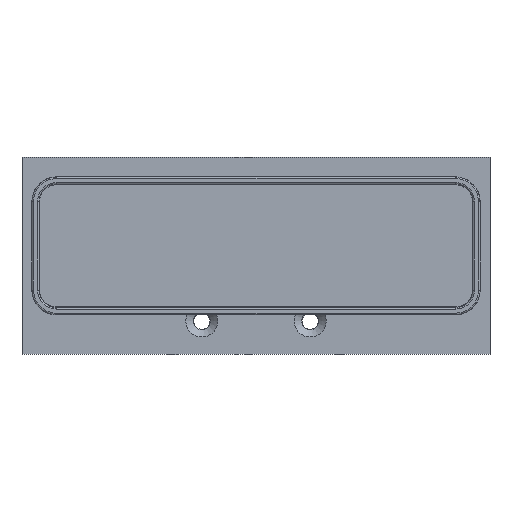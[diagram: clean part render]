
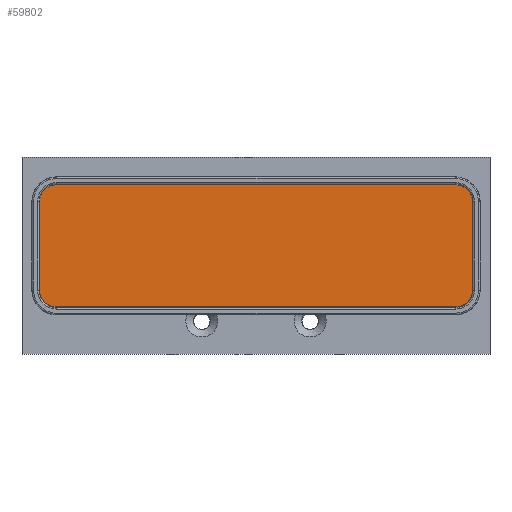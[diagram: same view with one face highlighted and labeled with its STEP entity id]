
A CAD part, top view. The second image highlights one B-rep face of the part: STEP entity #59802.
In plain terms, the highlighted planar face has unit normal (0, 0, 1).
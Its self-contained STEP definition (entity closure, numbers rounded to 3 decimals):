
#58647 = CYLINDRICAL_SURFACE('',#58648,3.4);
#58648 = AXIS2_PLACEMENT_3D('',#58649,#58650,#58651);
#58649 = CARTESIAN_POINT('',(-40.5,9.499,52.35));
#58650 = DIRECTION('',(0.,0.,-1.));
#58651 = DIRECTION('',(-1.,0.,0.));
#58675 = PLANE('',#58676);
#58676 = AXIS2_PLACEMENT_3D('',#58677,#58678,#58679);
#58677 = CARTESIAN_POINT('',(-43.9,12.899,47.601));
#58678 = DIRECTION('',(-1.,0.,0.));
#58679 = DIRECTION('',(0.,-1.,0.));
#58708 = CYLINDRICAL_SURFACE('',#58709,3.4);
#58709 = AXIS2_PLACEMENT_3D('',#58710,#58711,#58712);
#58710 = CARTESIAN_POINT('',(-40.5,-8.501,52.35));
#58711 = DIRECTION('',(0.,0.,-1.));
#58712 = DIRECTION('',(0.,-1.,0.));
#58736 = PLANE('',#58737);
#58737 = AXIS2_PLACEMENT_3D('',#58738,#58739,#58740);
#58738 = CARTESIAN_POINT('',(-43.9,-11.901,47.601));
#58739 = DIRECTION('',(0.,-1.,0.));
#58740 = DIRECTION('',(1.,0.,0.));
#58769 = CYLINDRICAL_SURFACE('',#58770,3.4);
#58770 = AXIS2_PLACEMENT_3D('',#58771,#58772,#58773);
#58771 = CARTESIAN_POINT('',(40.5,-8.501,52.35));
#58772 = DIRECTION('',(0.,0.,-1.));
#58773 = DIRECTION('',(1.,0.,0.));
#58797 = PLANE('',#58798);
#58798 = AXIS2_PLACEMENT_3D('',#58799,#58800,#58801);
#58799 = CARTESIAN_POINT('',(43.9,-11.901,47.601));
#58800 = DIRECTION('',(1.,0.,0.));
#58801 = DIRECTION('',(0.,1.,0.));
#58830 = CYLINDRICAL_SURFACE('',#58831,3.4);
#58831 = AXIS2_PLACEMENT_3D('',#58832,#58833,#58834);
#58832 = CARTESIAN_POINT('',(40.5,9.499,52.35));
#58833 = DIRECTION('',(0.,0.,-1.));
#58834 = DIRECTION('',(0.,1.,0.));
#58856 = PLANE('',#58857);
#58857 = AXIS2_PLACEMENT_3D('',#58858,#58859,#58860);
#58858 = CARTESIAN_POINT('',(43.9,12.899,47.601));
#58859 = DIRECTION('',(0.,1.,0.));
#58860 = DIRECTION('',(-1.,0.,0.));
#59406 = VERTEX_POINT('',#59407);
#59407 = CARTESIAN_POINT('',(-43.9,9.499,48.201));
#59428 = EDGE_CURVE('',#59429,#59406,#59431,.T.);
#59429 = VERTEX_POINT('',#59430);
#59430 = CARTESIAN_POINT('',(-40.5,12.899,48.201));
#59431 = SURFACE_CURVE('',#59432,(#59437,#59444),.PCURVE_S1.);
#59432 = CIRCLE('',#59433,3.4);
#59433 = AXIS2_PLACEMENT_3D('',#59434,#59435,#59436);
#59434 = CARTESIAN_POINT('',(-40.5,9.499,48.201));
#59435 = DIRECTION('',(0.,0.,1.));
#59436 = DIRECTION('',(0.,1.,0.));
#59437 = PCURVE('',#58647,#59438);
#59438 = DEFINITIONAL_REPRESENTATION('',(#59439),#59443);
#59439 = LINE('',#59440,#59441);
#59440 = CARTESIAN_POINT('',(1.571,4.149));
#59441 = VECTOR('',#59442,1.);
#59442 = DIRECTION('',(-1.,0.));
#59443 = ( GEOMETRIC_REPRESENTATION_CONTEXT(2) 
PARAMETRIC_REPRESENTATION_CONTEXT() REPRESENTATION_CONTEXT('2D SPACE',''
  ) );
#59444 = PCURVE('',#59445,#59450);
#59445 = PLANE('',#59446);
#59446 = AXIS2_PLACEMENT_3D('',#59447,#59448,#59449);
#59447 = CARTESIAN_POINT('',(0.,5.539,48.201));
#59448 = DIRECTION('',(0.,0.,1.));
#59449 = DIRECTION('',(1.,0.,0.));
#59450 = DEFINITIONAL_REPRESENTATION('',(#59451),#59455);
#59451 = CIRCLE('',#59452,3.4);
#59452 = AXIS2_PLACEMENT_2D('',#59453,#59454);
#59453 = CARTESIAN_POINT('',(-40.5,3.96));
#59454 = DIRECTION('',(0.,1.));
#59455 = ( GEOMETRIC_REPRESENTATION_CONTEXT(2) 
PARAMETRIC_REPRESENTATION_CONTEXT() REPRESENTATION_CONTEXT('2D SPACE',''
  ) );
#59485 = VERTEX_POINT('',#59486);
#59486 = CARTESIAN_POINT('',(40.5,12.899,48.201));
#59507 = EDGE_CURVE('',#59485,#59429,#59508,.T.);
#59508 = SURFACE_CURVE('',#59509,(#59513,#59520),.PCURVE_S1.);
#59509 = LINE('',#59510,#59511);
#59510 = CARTESIAN_POINT('',(40.5,12.899,48.201));
#59511 = VECTOR('',#59512,1.);
#59512 = DIRECTION('',(-1.,0.,0.));
#59513 = PCURVE('',#58856,#59514);
#59514 = DEFINITIONAL_REPRESENTATION('',(#59515),#59519);
#59515 = LINE('',#59516,#59517);
#59516 = CARTESIAN_POINT('',(3.4,0.6));
#59517 = VECTOR('',#59518,1.);
#59518 = DIRECTION('',(1.,0.));
#59519 = ( GEOMETRIC_REPRESENTATION_CONTEXT(2) 
PARAMETRIC_REPRESENTATION_CONTEXT() REPRESENTATION_CONTEXT('2D SPACE',''
  ) );
#59520 = PCURVE('',#59445,#59521);
#59521 = DEFINITIONAL_REPRESENTATION('',(#59522),#59526);
#59522 = LINE('',#59523,#59524);
#59523 = CARTESIAN_POINT('',(40.5,7.36));
#59524 = VECTOR('',#59525,1.);
#59525 = DIRECTION('',(-1.,0.));
#59526 = ( GEOMETRIC_REPRESENTATION_CONTEXT(2) 
PARAMETRIC_REPRESENTATION_CONTEXT() REPRESENTATION_CONTEXT('2D SPACE',''
  ) );
#59532 = EDGE_CURVE('',#59533,#59485,#59535,.T.);
#59533 = VERTEX_POINT('',#59534);
#59534 = CARTESIAN_POINT('',(43.9,9.499,48.201));
#59535 = SURFACE_CURVE('',#59536,(#59541,#59548),.PCURVE_S1.);
#59536 = CIRCLE('',#59537,3.4);
#59537 = AXIS2_PLACEMENT_3D('',#59538,#59539,#59540);
#59538 = CARTESIAN_POINT('',(40.5,9.499,48.201));
#59539 = DIRECTION('',(0.,0.,1.));
#59540 = DIRECTION('',(1.,0.,0.));
#59541 = PCURVE('',#58830,#59542);
#59542 = DEFINITIONAL_REPRESENTATION('',(#59543),#59547);
#59543 = LINE('',#59544,#59545);
#59544 = CARTESIAN_POINT('',(1.571,4.149));
#59545 = VECTOR('',#59546,1.);
#59546 = DIRECTION('',(-1.,0.));
#59547 = ( GEOMETRIC_REPRESENTATION_CONTEXT(2) 
PARAMETRIC_REPRESENTATION_CONTEXT() REPRESENTATION_CONTEXT('2D SPACE',''
  ) );
#59548 = PCURVE('',#59445,#59549);
#59549 = DEFINITIONAL_REPRESENTATION('',(#59550),#59554);
#59550 = CIRCLE('',#59551,3.4);
#59551 = AXIS2_PLACEMENT_2D('',#59552,#59553);
#59552 = CARTESIAN_POINT('',(40.5,3.96));
#59553 = DIRECTION('',(1.,0.));
#59554 = ( GEOMETRIC_REPRESENTATION_CONTEXT(2) 
PARAMETRIC_REPRESENTATION_CONTEXT() REPRESENTATION_CONTEXT('2D SPACE',''
  ) );
#59582 = VERTEX_POINT('',#59583);
#59583 = CARTESIAN_POINT('',(43.9,-8.501,48.201));
#59604 = EDGE_CURVE('',#59582,#59533,#59605,.T.);
#59605 = SURFACE_CURVE('',#59606,(#59610,#59617),.PCURVE_S1.);
#59606 = LINE('',#59607,#59608);
#59607 = CARTESIAN_POINT('',(43.9,-8.501,48.201));
#59608 = VECTOR('',#59609,1.);
#59609 = DIRECTION('',(0.,1.,0.));
#59610 = PCURVE('',#58797,#59611);
#59611 = DEFINITIONAL_REPRESENTATION('',(#59612),#59616);
#59612 = LINE('',#59613,#59614);
#59613 = CARTESIAN_POINT('',(3.4,0.6));
#59614 = VECTOR('',#59615,1.);
#59615 = DIRECTION('',(1.,0.));
#59616 = ( GEOMETRIC_REPRESENTATION_CONTEXT(2) 
PARAMETRIC_REPRESENTATION_CONTEXT() REPRESENTATION_CONTEXT('2D SPACE',''
  ) );
#59617 = PCURVE('',#59445,#59618);
#59618 = DEFINITIONAL_REPRESENTATION('',(#59619),#59623);
#59619 = LINE('',#59620,#59621);
#59620 = CARTESIAN_POINT('',(43.9,-14.04));
#59621 = VECTOR('',#59622,1.);
#59622 = DIRECTION('',(0.,1.));
#59623 = ( GEOMETRIC_REPRESENTATION_CONTEXT(2) 
PARAMETRIC_REPRESENTATION_CONTEXT() REPRESENTATION_CONTEXT('2D SPACE',''
  ) );
#59631 = EDGE_CURVE('',#59632,#59582,#59634,.T.);
#59632 = VERTEX_POINT('',#59633);
#59633 = CARTESIAN_POINT('',(40.5,-11.901,48.201));
#59634 = SURFACE_CURVE('',#59635,(#59640,#59647),.PCURVE_S1.);
#59635 = CIRCLE('',#59636,3.4);
#59636 = AXIS2_PLACEMENT_3D('',#59637,#59638,#59639);
#59637 = CARTESIAN_POINT('',(40.5,-8.501,48.201));
#59638 = DIRECTION('',(0.,0.,1.));
#59639 = DIRECTION('',(0.,-1.,0.));
#59640 = PCURVE('',#58769,#59641);
#59641 = DEFINITIONAL_REPRESENTATION('',(#59642),#59646);
#59642 = LINE('',#59643,#59644);
#59643 = CARTESIAN_POINT('',(1.571,4.149));
#59644 = VECTOR('',#59645,1.);
#59645 = DIRECTION('',(-1.,0.));
#59646 = ( GEOMETRIC_REPRESENTATION_CONTEXT(2) 
PARAMETRIC_REPRESENTATION_CONTEXT() REPRESENTATION_CONTEXT('2D SPACE',''
  ) );
#59647 = PCURVE('',#59445,#59648);
#59648 = DEFINITIONAL_REPRESENTATION('',(#59649),#59653);
#59649 = CIRCLE('',#59650,3.4);
#59650 = AXIS2_PLACEMENT_2D('',#59651,#59652);
#59651 = CARTESIAN_POINT('',(40.5,-14.04));
#59652 = DIRECTION('',(-0.,-1.));
#59653 = ( GEOMETRIC_REPRESENTATION_CONTEXT(2) 
PARAMETRIC_REPRESENTATION_CONTEXT() REPRESENTATION_CONTEXT('2D SPACE',''
  ) );
#59681 = VERTEX_POINT('',#59682);
#59682 = CARTESIAN_POINT('',(-40.5,-11.901,48.201));
#59703 = EDGE_CURVE('',#59681,#59632,#59704,.T.);
#59704 = SURFACE_CURVE('',#59705,(#59709,#59716),.PCURVE_S1.);
#59705 = LINE('',#59706,#59707);
#59706 = CARTESIAN_POINT('',(-40.5,-11.901,48.201));
#59707 = VECTOR('',#59708,1.);
#59708 = DIRECTION('',(1.,0.,0.));
#59709 = PCURVE('',#58736,#59710);
#59710 = DEFINITIONAL_REPRESENTATION('',(#59711),#59715);
#59711 = LINE('',#59712,#59713);
#59712 = CARTESIAN_POINT('',(3.4,0.6));
#59713 = VECTOR('',#59714,1.);
#59714 = DIRECTION('',(1.,0.));
#59715 = ( GEOMETRIC_REPRESENTATION_CONTEXT(2) 
PARAMETRIC_REPRESENTATION_CONTEXT() REPRESENTATION_CONTEXT('2D SPACE',''
  ) );
#59716 = PCURVE('',#59445,#59717);
#59717 = DEFINITIONAL_REPRESENTATION('',(#59718),#59722);
#59718 = LINE('',#59719,#59720);
#59719 = CARTESIAN_POINT('',(-40.5,-17.44));
#59720 = VECTOR('',#59721,1.);
#59721 = DIRECTION('',(1.,0.));
#59722 = ( GEOMETRIC_REPRESENTATION_CONTEXT(2) 
PARAMETRIC_REPRESENTATION_CONTEXT() REPRESENTATION_CONTEXT('2D SPACE',''
  ) );
#59730 = EDGE_CURVE('',#59731,#59681,#59733,.T.);
#59731 = VERTEX_POINT('',#59732);
#59732 = CARTESIAN_POINT('',(-43.9,-8.501,48.201));
#59733 = SURFACE_CURVE('',#59734,(#59739,#59746),.PCURVE_S1.);
#59734 = CIRCLE('',#59735,3.4);
#59735 = AXIS2_PLACEMENT_3D('',#59736,#59737,#59738);
#59736 = CARTESIAN_POINT('',(-40.5,-8.501,48.201));
#59737 = DIRECTION('',(0.,0.,1.));
#59738 = DIRECTION('',(-1.,0.,0.));
#59739 = PCURVE('',#58708,#59740);
#59740 = DEFINITIONAL_REPRESENTATION('',(#59741),#59745);
#59741 = LINE('',#59742,#59743);
#59742 = CARTESIAN_POINT('',(1.571,4.149));
#59743 = VECTOR('',#59744,1.);
#59744 = DIRECTION('',(-1.,0.));
#59745 = ( GEOMETRIC_REPRESENTATION_CONTEXT(2) 
PARAMETRIC_REPRESENTATION_CONTEXT() REPRESENTATION_CONTEXT('2D SPACE',''
  ) );
#59746 = PCURVE('',#59445,#59747);
#59747 = DEFINITIONAL_REPRESENTATION('',(#59748),#59752);
#59748 = CIRCLE('',#59749,3.4);
#59749 = AXIS2_PLACEMENT_2D('',#59750,#59751);
#59750 = CARTESIAN_POINT('',(-40.5,-14.04));
#59751 = DIRECTION('',(-1.,0.));
#59752 = ( GEOMETRIC_REPRESENTATION_CONTEXT(2) 
PARAMETRIC_REPRESENTATION_CONTEXT() REPRESENTATION_CONTEXT('2D SPACE',''
  ) );
#59780 = EDGE_CURVE('',#59406,#59731,#59781,.T.);
#59781 = SURFACE_CURVE('',#59782,(#59786,#59793),.PCURVE_S1.);
#59782 = LINE('',#59783,#59784);
#59783 = CARTESIAN_POINT('',(-43.9,9.499,48.201));
#59784 = VECTOR('',#59785,1.);
#59785 = DIRECTION('',(0.,-1.,0.));
#59786 = PCURVE('',#58675,#59787);
#59787 = DEFINITIONAL_REPRESENTATION('',(#59788),#59792);
#59788 = LINE('',#59789,#59790);
#59789 = CARTESIAN_POINT('',(3.4,0.6));
#59790 = VECTOR('',#59791,1.);
#59791 = DIRECTION('',(1.,0.));
#59792 = ( GEOMETRIC_REPRESENTATION_CONTEXT(2) 
PARAMETRIC_REPRESENTATION_CONTEXT() REPRESENTATION_CONTEXT('2D SPACE',''
  ) );
#59793 = PCURVE('',#59445,#59794);
#59794 = DEFINITIONAL_REPRESENTATION('',(#59795),#59799);
#59795 = LINE('',#59796,#59797);
#59796 = CARTESIAN_POINT('',(-43.9,3.96));
#59797 = VECTOR('',#59798,1.);
#59798 = DIRECTION('',(-0.,-1.));
#59799 = ( GEOMETRIC_REPRESENTATION_CONTEXT(2) 
PARAMETRIC_REPRESENTATION_CONTEXT() REPRESENTATION_CONTEXT('2D SPACE',''
  ) );
#59802 = ADVANCED_FACE('',(#59803),#59445,.T.);
#59803 = FACE_BOUND('',#59804,.F.);
#59804 = EDGE_LOOP('',(#59805,#59806,#59807,#59808,#59809,#59810,#59811,
    #59812));
#59805 = ORIENTED_EDGE('',*,*,#59428,.F.);
#59806 = ORIENTED_EDGE('',*,*,#59507,.F.);
#59807 = ORIENTED_EDGE('',*,*,#59532,.F.);
#59808 = ORIENTED_EDGE('',*,*,#59604,.F.);
#59809 = ORIENTED_EDGE('',*,*,#59631,.F.);
#59810 = ORIENTED_EDGE('',*,*,#59703,.F.);
#59811 = ORIENTED_EDGE('',*,*,#59730,.F.);
#59812 = ORIENTED_EDGE('',*,*,#59780,.F.);
